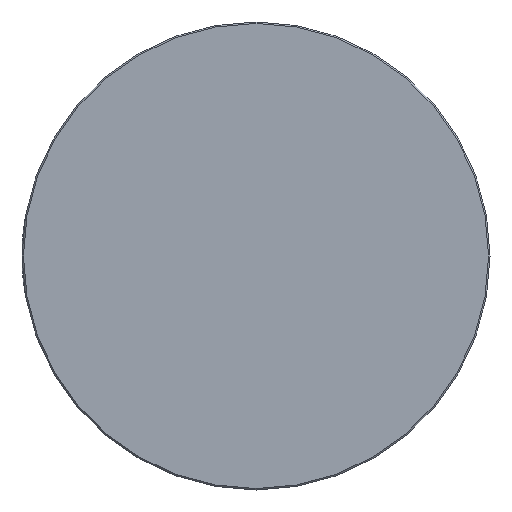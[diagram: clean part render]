
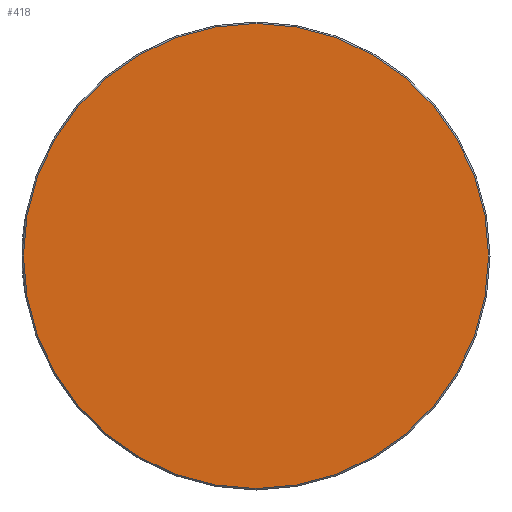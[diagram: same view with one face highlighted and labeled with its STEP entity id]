
A CAD part, front view. The second image highlights one B-rep face of the part: STEP entity #418.
In plain terms, the highlighted planar face has unit normal (0, -1, 0).
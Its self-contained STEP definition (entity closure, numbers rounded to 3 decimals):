
#42=PLANE('',#492);
#61=FACE_OUTER_BOUND('',#88,.T.);
#88=EDGE_LOOP('',(#358,#359));
#160=CIRCLE('',#493,79.5);
#161=CIRCLE('',#494,79.5);
#207=VERTEX_POINT('',#790);
#208=VERTEX_POINT('',#791);
#262=EDGE_CURVE('',#207,#208,#160,.T.);
#263=EDGE_CURVE('',#208,#207,#161,.T.);
#358=ORIENTED_EDGE('',*,*,#262,.F.);
#359=ORIENTED_EDGE('',*,*,#263,.F.);
#418=ADVANCED_FACE('',(#61),#42,.T.);
#492=AXIS2_PLACEMENT_3D('',#789,#617,#618);
#493=AXIS2_PLACEMENT_3D('',#792,#619,#620);
#494=AXIS2_PLACEMENT_3D('',#793,#621,#622);
#617=DIRECTION('center_axis',(0.,-1.,0.));
#618=DIRECTION('ref_axis',(0.,0.,-1.));
#619=DIRECTION('center_axis',(0.,1.,0.));
#620=DIRECTION('ref_axis',(-1.,0.,0.));
#621=DIRECTION('center_axis',(0.,1.,0.));
#622=DIRECTION('ref_axis',(-1.,0.,0.));
#789=CARTESIAN_POINT('Origin',(-39.75,0.,0.));
#790=CARTESIAN_POINT('',(-79.5,0.,0.));
#791=CARTESIAN_POINT('',(79.5,0.,0.));
#792=CARTESIAN_POINT('Origin',(0.,0.,0.));
#793=CARTESIAN_POINT('Origin',(0.,0.,0.));
